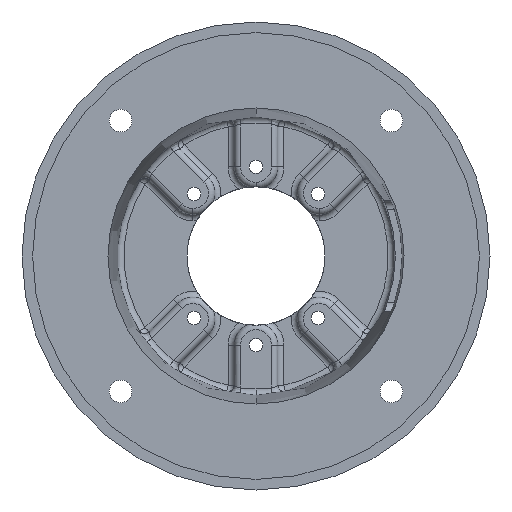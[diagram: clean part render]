
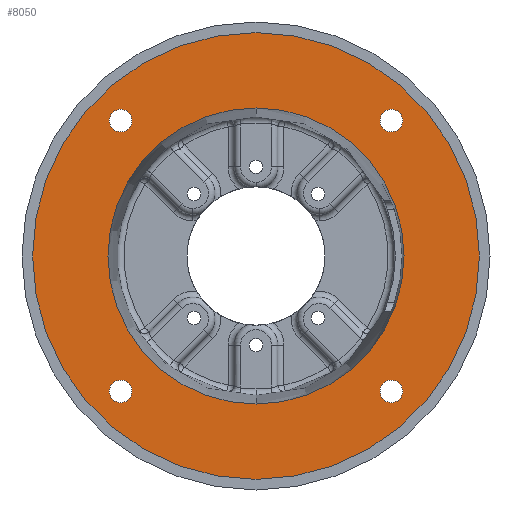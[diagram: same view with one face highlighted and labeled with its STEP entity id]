
A CAD part, front view. The second image highlights one B-rep face of the part: STEP entity #8050.
In plain terms, the highlighted planar face has unit normal (0, -1, 0).
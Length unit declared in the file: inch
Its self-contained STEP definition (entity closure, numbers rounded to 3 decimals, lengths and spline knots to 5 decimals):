
#53 = CARTESIAN_POINT ( 'NONE',  ( -3.18198, 0.18, 3.18198 ) ) ;
#55 = AXIS2_PLACEMENT_3D ( 'NONE', #53, #63, #98 ) ;
#56 = CIRCLE ( 'NONE', #55, 0.26562 ) ;
#59 = CARTESIAN_POINT ( 'NONE',  ( -3.18198, 0.18, 3.44761 ) ) ;
#63 = DIRECTION ( 'NONE',  ( 0., -1., 0. ) ) ;
#98 = DIRECTION ( 'NONE',  ( 0., 0., -1. ) ) ;
#106 = CARTESIAN_POINT ( 'NONE',  ( -3.18198, 0.18, 2.91636 ) ) ;
#143 = CARTESIAN_POINT ( 'NONE',  ( 3.18198, 0.18, -3.44761 ) ) ;
#244 = DIRECTION ( 'NONE',  ( 0., 0., -1. ) ) ;
#245 = DIRECTION ( 'NONE',  ( 0., -1., 0. ) ) ;
#246 = AXIS2_PLACEMENT_3D ( 'NONE', #254, #245, #244 ) ;
#248 = CIRCLE ( 'NONE', #246, 0.26562 ) ;
#254 = CARTESIAN_POINT ( 'NONE',  ( 3.18198, 0.18, -3.18198 ) ) ;
#269 = CIRCLE ( 'NONE', #279, 5.2505 ) ;
#272 = CARTESIAN_POINT ( 'NONE',  ( 3.18198, 0.18, 3.44761 ) ) ;
#277 = DIRECTION ( 'NONE',  ( 0., -1., 0. ) ) ;
#278 = CARTESIAN_POINT ( 'NONE',  ( 0., 0.18, 0. ) ) ;
#279 = AXIS2_PLACEMENT_3D ( 'NONE', #278, #277, #298 ) ;
#280 = CARTESIAN_POINT ( 'NONE',  ( 0., 0.18, -5.2505 ) ) ;
#281 = CARTESIAN_POINT ( 'NONE',  ( 0., 0.18, 5.2505 ) ) ;
#292 = CARTESIAN_POINT ( 'NONE',  ( 3.18198, 0.18, -2.91636 ) ) ;
#298 = DIRECTION ( 'NONE',  ( 0., 0., -1. ) ) ;
#326 = DIRECTION ( 'NONE',  ( 0., 0., -1. ) ) ;
#327 = DIRECTION ( 'NONE',  ( 0., -1., 0. ) ) ;
#328 = CARTESIAN_POINT ( 'NONE',  ( 3.18198, 0.18, 3.18198 ) ) ;
#330 = CIRCLE ( 'NONE', #338, 0.26562 ) ;
#338 = AXIS2_PLACEMENT_3D ( 'NONE', #328, #327, #326 ) ;
#641 = CARTESIAN_POINT ( 'NONE',  ( -3.18198, 0.18, -3.18198 ) ) ;
#660 = CARTESIAN_POINT ( 'NONE',  ( -3.18198, 0.18, -3.44761 ) ) ;
#661 = CARTESIAN_POINT ( 'NONE',  ( 3.18198, 0.18, 2.91636 ) ) ;
#662 = CARTESIAN_POINT ( 'NONE',  ( -3.18198, 0.18, -2.91636 ) ) ;
#665 = DIRECTION ( 'NONE',  ( 0., 0., -1. ) ) ;
#666 = DIRECTION ( 'NONE',  ( 0., -1., 0. ) ) ;
#667 = AXIS2_PLACEMENT_3D ( 'NONE', #641, #666, #665 ) ;
#668 = CIRCLE ( 'NONE', #667, 0.26562 ) ;
#2237 = CARTESIAN_POINT ( 'NONE',  ( 0., 0.18, -3.47973 ) ) ;
#2256 = CARTESIAN_POINT ( 'NONE',  ( 0., 0.18, 3.47973 ) ) ;
#2455 = DIRECTION ( 'NONE',  ( 0., 0., -1. ) ) ;
#2456 = DIRECTION ( 'NONE',  ( 0., 1., 0. ) ) ;
#2457 = CARTESIAN_POINT ( 'NONE',  ( 0., 0.18, 0. ) ) ;
#2458 = AXIS2_PLACEMENT_3D ( 'NONE', #2457, #2456, #2455 ) ;
#2459 = CIRCLE ( 'NONE', #2458, 3.47973 ) ;
#2576 = DIRECTION ( 'NONE',  ( 0., 0., -1. ) ) ;
#2577 = DIRECTION ( 'NONE',  ( 0., 1., 0. ) ) ;
#2578 = CARTESIAN_POINT ( 'NONE',  ( 0., 0.18, 0. ) ) ;
#2579 = AXIS2_PLACEMENT_3D ( 'NONE', #2578, #2577, #2576 ) ;
#2580 = CIRCLE ( 'NONE', #2579, 3.47973 ) ;
#4120 = DIRECTION ( 'NONE',  ( 0., 0., -1. ) ) ;
#5224 = VERTEX_POINT ( 'NONE', #59 ) ;
#5226 = EDGE_CURVE ( 'NONE', #5224, #5249, #56, .T. ) ;
#5249 = VERTEX_POINT ( 'NONE', #106 ) ;
#5257 = VERTEX_POINT ( 'NONE', #143 ) ;
#5295 = EDGE_CURVE ( 'NONE', #5319, #5257, #248, .T. ) ;
#5300 = EDGE_CURVE ( 'NONE', #5301, #5302, #269, .T. ) ;
#5301 = VERTEX_POINT ( 'NONE', #281 ) ;
#5302 = VERTEX_POINT ( 'NONE', #280 ) ;
#5319 = VERTEX_POINT ( 'NONE', #292 ) ;
#5321 = VERTEX_POINT ( 'NONE', #272 ) ;
#5333 = EDGE_CURVE ( 'NONE', #5321, #5357, #330, .T. ) ;
#5349 = EDGE_CURVE ( 'NONE', #5355, #5358, #668, .T. ) ;
#5355 = VERTEX_POINT ( 'NONE', #662 ) ;
#5357 = VERTEX_POINT ( 'NONE', #661 ) ;
#5358 = VERTEX_POINT ( 'NONE', #660 ) ;
#7001 = VERTEX_POINT ( 'NONE', #2237 ) ;
#7018 = VERTEX_POINT ( 'NONE', #2256 ) ;
#7067 = EDGE_CURVE ( 'NONE', #7018, #7001, #2459, .T. ) ;
#7109 = EDGE_CURVE ( 'NONE', #7001, #7018, #2580, .T. ) ;
#8001 = ORIENTED_EDGE ( 'NONE', *, *, #8002, .T. ) ;
#8002 = EDGE_CURVE ( 'NONE', #5302, #5301, #9128, .T. ) ;
#8003 = ORIENTED_EDGE ( 'NONE', *, *, #5300, .T. ) ;
#8004 = EDGE_LOOP ( 'NONE', ( #8005, #8040 ) ) ;
#8005 = ORIENTED_EDGE ( 'NONE', *, *, #7109, .T. ) ;
#8008 = EDGE_CURVE ( 'NONE', #5249, #5224, #8939, .T. ) ;
#8009 = ORIENTED_EDGE ( 'NONE', *, *, #5226, .F. ) ;
#8010 = EDGE_LOOP ( 'NONE', ( #8069, #8071 ) ) ;
#8040 = ORIENTED_EDGE ( 'NONE', *, *, #7067, .T. ) ;
#8046 = EDGE_CURVE ( 'NONE', #5257, #5319, #9147, .T. ) ;
#8047 = ORIENTED_EDGE ( 'NONE', *, *, #5295, .F. ) ;
#8048 = EDGE_LOOP ( 'NONE', ( #8049, #8056 ) ) ;
#8049 = ORIENTED_EDGE ( 'NONE', *, *, #8055, .F. ) ;
#8050 = ADVANCED_FACE ( 'NONE', ( #9213, #9212, #9211, #9210, #9209, #9208 ), #9207, .T. ) ;
#8051 = EDGE_LOOP ( 'NONE', ( #8052, #8009 ) ) ;
#8052 = ORIENTED_EDGE ( 'NONE', *, *, #8008, .F. ) ;
#8055 = EDGE_CURVE ( 'NONE', #5358, #5355, #9202, .T. ) ;
#8056 = ORIENTED_EDGE ( 'NONE', *, *, #5349, .F. ) ;
#8057 = EDGE_LOOP ( 'NONE', ( #8001, #8003 ) ) ;
#8069 = ORIENTED_EDGE ( 'NONE', *, *, #8070, .F. ) ;
#8070 = EDGE_CURVE ( 'NONE', #5357, #5321, #9184, .T. ) ;
#8071 = ORIENTED_EDGE ( 'NONE', *, *, #5333, .F. ) ;
#8072 = EDGE_LOOP ( 'NONE', ( #8073, #8047 ) ) ;
#8073 = ORIENTED_EDGE ( 'NONE', *, *, #8046, .F. ) ;
#8937 = CARTESIAN_POINT ( 'NONE',  ( -3.18198, 0.18, 3.18198 ) ) ;
#8938 = AXIS2_PLACEMENT_3D ( 'NONE', #8937, #8940, #4120 ) ;
#8939 = CIRCLE ( 'NONE', #8938, 0.26562 ) ;
#8940 = DIRECTION ( 'NONE',  ( 0., -1., 0. ) ) ;
#9125 = DIRECTION ( 'NONE',  ( 0., 0., -1. ) ) ;
#9126 = DIRECTION ( 'NONE',  ( 0., -1., 0. ) ) ;
#9127 = AXIS2_PLACEMENT_3D ( 'NONE', #9133, #9126, #9125 ) ;
#9128 = CIRCLE ( 'NONE', #9127, 5.2505 ) ;
#9133 = CARTESIAN_POINT ( 'NONE',  ( 0., 0.18, 0. ) ) ;
#9145 = DIRECTION ( 'NONE',  ( 0., -1., 0. ) ) ;
#9146 = AXIS2_PLACEMENT_3D ( 'NONE', #9151, #9145, #9214 ) ;
#9147 = CIRCLE ( 'NONE', #9146, 0.26562 ) ;
#9151 = CARTESIAN_POINT ( 'NONE',  ( 3.18198, 0.18, -3.18198 ) ) ;
#9181 = DIRECTION ( 'NONE',  ( 0., 0., -1. ) ) ;
#9182 = DIRECTION ( 'NONE',  ( 0., -1., 0. ) ) ;
#9183 = AXIS2_PLACEMENT_3D ( 'NONE', #9189, #9182, #9181 ) ;
#9184 = CIRCLE ( 'NONE', #9183, 0.26562 ) ;
#9189 = CARTESIAN_POINT ( 'NONE',  ( 3.18198, 0.18, 3.18198 ) ) ;
#9198 = DIRECTION ( 'NONE',  ( 0., 0., -1. ) ) ;
#9199 = DIRECTION ( 'NONE',  ( 0., -1., 0. ) ) ;
#9200 = CARTESIAN_POINT ( 'NONE',  ( -3.18198, 0.18, -3.18198 ) ) ;
#9201 = AXIS2_PLACEMENT_3D ( 'NONE', #9200, #9199, #9198 ) ;
#9202 = CIRCLE ( 'NONE', #9201, 0.26562 ) ;
#9203 = DIRECTION ( 'NONE',  ( 0., 0., -1. ) ) ;
#9204 = DIRECTION ( 'NONE',  ( 0., -1., 0. ) ) ;
#9205 = CARTESIAN_POINT ( 'NONE',  ( 0., 0.18, 0. ) ) ;
#9206 = AXIS2_PLACEMENT_3D ( 'NONE', #9205, #9204, #9203 ) ;
#9207 = PLANE ( 'NONE',  #9206 ) ;
#9208 = FACE_BOUND ( 'NONE', #8004, .T. ) ;
#9209 = FACE_OUTER_BOUND ( 'NONE', #8057, .T. ) ;
#9210 = FACE_BOUND ( 'NONE', #8048, .T. ) ;
#9211 = FACE_BOUND ( 'NONE', #8072, .T. ) ;
#9212 = FACE_BOUND ( 'NONE', #8010, .T. ) ;
#9213 = FACE_BOUND ( 'NONE', #8051, .T. ) ;
#9214 = DIRECTION ( 'NONE',  ( 0., 0., -1. ) ) ;
